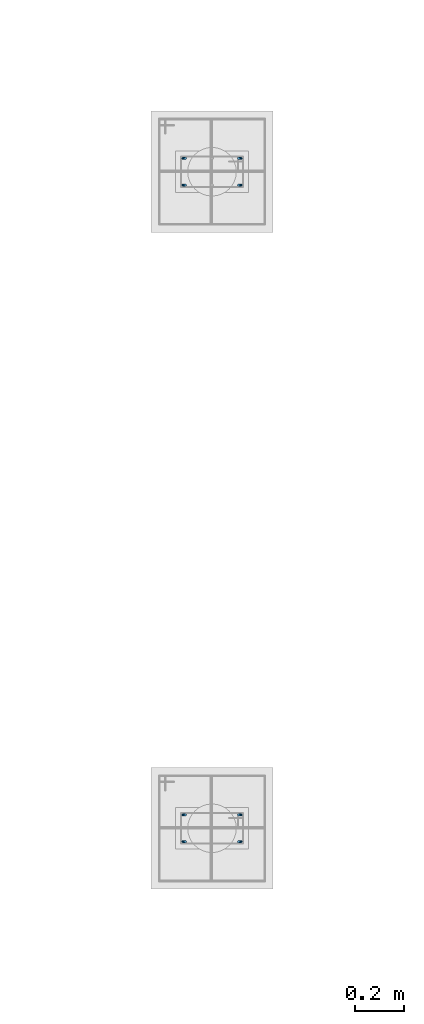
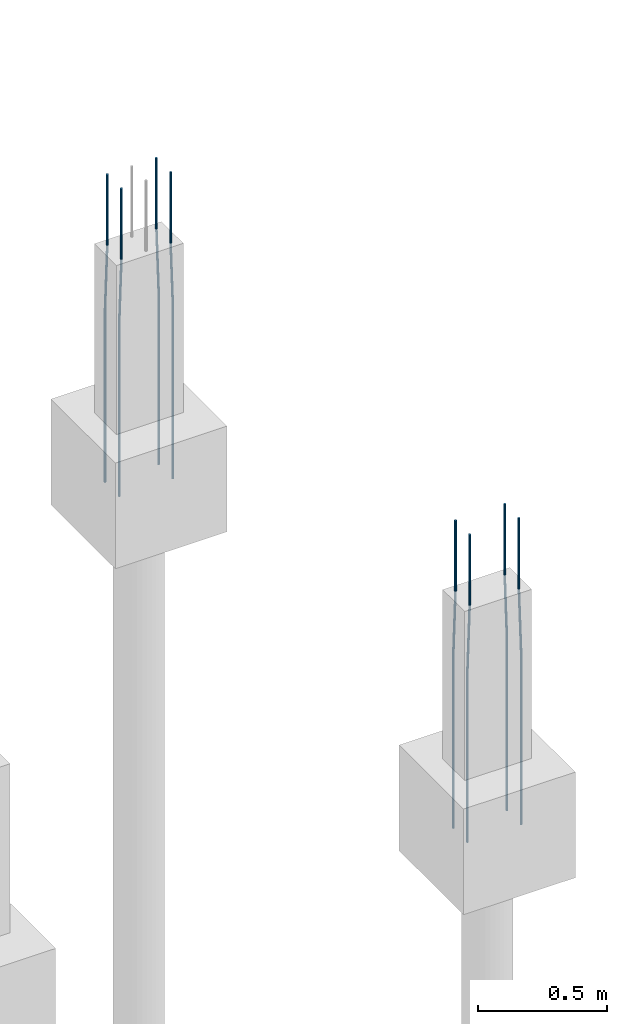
# One storey, part 61 of 119: 8 reinforcing bars.
"""IFC4 building model written with IfcOpenShell, lengths in centimetres."""

from ifc_helpers import new_model, entity, si_unit, derived_unit, frame, origin_with_axes, place, context, project, spatial, element, save


model = new_model("IFC4")

# Units and contexts
model_context = context("Model", 3, precision=1e-05, world=origin_with_axes(), identifier="Body")
ifc_project = project(units=[si_unit("LENGTHUNIT", "METRE", prefix="CENTI"), si_unit("VOLUMEUNIT", "CUBIC_METRE"), si_unit("AREAUNIT", "SQUARE_METRE"), si_unit("POWERUNIT", "WATT"), si_unit("LUMINOUSFLUXUNIT", "LUMEN"), si_unit("ELECTRICCURRENTUNIT", "AMPERE"), si_unit("PRESSUREUNIT", "PASCAL", prefix="KILO"), si_unit("MASSUNIT", "GRAM", prefix="KILO"), si_unit("PLANEANGLEUNIT", "RADIAN"), derived_unit("VOLUMETRICFLOWRATEUNIT", [(si_unit("LENGTHUNIT", "METRE"), 3), (si_unit("TIMEUNIT", "SECOND"), -1)])], contexts=[model_context])

# Site, building, storey
site_placement = place(None, frame((-4000.0, 0.0, 0.0), z_axis=(0.0, 0.0, 1.0), x_axis=(1.0, 0.0, 0.0)))
site = spatial("IfcSite", under=ifc_project, at=site_placement, Name="PADRÃO")
building_placement = place(site_placement, frame((0.0, 0.0, -14.0)))
building = spatial("IfcBuilding", under=site, at=building_placement, Name="CRECHE PRÉ-ESCOLA TIPO 2")
storey_placement = place(building_placement, origin_with_axes())
storey = spatial("IfcBuildingStorey", under=building, at=storey_placement, Name="FUNDAÇÃO", CompositionType="ELEMENT", Elevation=-14.0)

# Reinforcing bars
for number, where, z_axis, x_axis, name in (
    (1, (3361.0, 3464.52, 33.3573001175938), (0.0, 0.0, 1.0), (1.0, 0.0, 0.0), "P45 - Longitudinal"),
    (2, (3361.0, 3475.52, 33.3573001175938), (0.0, 0.0, 1.0), (1.0, 0.0, 0.0), "P45 - Longitudinal"),
):
    element("IfcReinforcingBar", number, at=place(storey_placement, frame(where, z_axis=z_axis, x_axis=x_axis)), inside=storey, Name=name, BarLength=0.0, CrossSectionArea=7.853981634e-05, NominalDiameter=1.0, PredefinedType="MAIN", context=model_context, shape_type="AdvancedSweptSolid", body=[
        entity("IfcSweptDiskSolid", entity("IfcCompositeCurve", [entity("IfcCompositeCurveSegment", "CONTINUOUS", True, entity("IfcPolyline", [entity("IfcCartesianPoint", [-0.5, 0.0, -145.357300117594]), entity("IfcCartesianPoint", [-0.5, 0.0, -63.3573001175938])])), entity("IfcCompositeCurveSegment", "CONTINUOUS", True, entity("IfcPolyline", [entity("IfcCartesianPoint", [-0.5, 0.0, -63.3573001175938]), entity("IfcCartesianPoint", [0.5, 0.0, -33.3573001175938])])), entity("IfcCompositeCurveSegment", "CONTINUOUS", True, entity("IfcPolyline", [entity("IfcCartesianPoint", [0.5, 0.0, -33.3573001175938]), entity("IfcCartesianPoint", [0.5, 0.0, 0.0])]))], False), 0.5),
    ])
for number, where, z_axis, x_axis, name in (
    (3, (3384.0, 3475.52, 33.3573001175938), (0.0, 0.0, 1.0), (1.0, 0.0, 0.0), "P45 - Longitudinal"),
    (4, (3384.0, 3464.52, 33.3573001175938), (0.0, 0.0, 1.0), (1.0, 0.0, 0.0), "P45 - Longitudinal"),
    (5, (3384.0, 3194.52, 33.3573001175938), (0.0, 0.0, 1.0), (1.0, 0.0, 0.0), "P56 - Longitudinal"),
):
    element("IfcReinforcingBar", number, at=place(storey_placement, frame(where, z_axis=z_axis, x_axis=x_axis)), inside=storey, Name=name, BarLength=0.0, CrossSectionArea=7.853981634e-05, NominalDiameter=1.0, PredefinedType="MAIN", context=model_context, shape_type="AdvancedSweptSolid", body=[
        entity("IfcSweptDiskSolid", entity("IfcCompositeCurve", [entity("IfcCompositeCurveSegment", "CONTINUOUS", True, entity("IfcPolyline", [entity("IfcCartesianPoint", [0.5, 0.0, -145.357300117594]), entity("IfcCartesianPoint", [0.5, 0.0, -63.3573001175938])])), entity("IfcCompositeCurveSegment", "CONTINUOUS", True, entity("IfcPolyline", [entity("IfcCartesianPoint", [0.5, 0.0, -63.3573001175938]), entity("IfcCartesianPoint", [-0.5, 0.0, -33.3573001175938])])), entity("IfcCompositeCurveSegment", "CONTINUOUS", True, entity("IfcPolyline", [entity("IfcCartesianPoint", [-0.5, 0.0, -33.3573001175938]), entity("IfcCartesianPoint", [-0.5, 0.0, 0.0])]))], False), 0.5),
    ])
for number, where, z_axis, x_axis, name in (
    (6, (3361.0, 3194.52, 33.3573001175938), (0.0, 0.0, 1.0), (1.0, 0.0, 0.0), "P56 - Longitudinal"),
    (7, (3361.0, 3205.52, 33.3573001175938), (0.0, 0.0, 1.0), (1.0, 0.0, 0.0), "P56 - Longitudinal"),
):
    element("IfcReinforcingBar", number, at=place(storey_placement, frame(where, z_axis=z_axis, x_axis=x_axis)), inside=storey, Name=name, BarLength=0.0, CrossSectionArea=7.853981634e-05, NominalDiameter=1.0, PredefinedType="MAIN", context=model_context, shape_type="AdvancedSweptSolid", body=[
        entity("IfcSweptDiskSolid", entity("IfcCompositeCurve", [entity("IfcCompositeCurveSegment", "CONTINUOUS", True, entity("IfcPolyline", [entity("IfcCartesianPoint", [-0.5, 0.0, -145.357300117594]), entity("IfcCartesianPoint", [-0.5, 0.0, -63.3573001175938])])), entity("IfcCompositeCurveSegment", "CONTINUOUS", True, entity("IfcPolyline", [entity("IfcCartesianPoint", [-0.5, 0.0, -63.3573001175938]), entity("IfcCartesianPoint", [0.5, 0.0, -33.3573001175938])])), entity("IfcCompositeCurveSegment", "CONTINUOUS", True, entity("IfcPolyline", [entity("IfcCartesianPoint", [0.5, 0.0, -33.3573001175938]), entity("IfcCartesianPoint", [0.5, 0.0, 0.0])]))], False), 0.5),
    ])
reinforcing_bar_placement = place(storey_placement, frame((3384.0, 3205.52, 33.3573001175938), z_axis=(0.0, 0.0, 1.0), x_axis=(1.0, 0.0, 0.0)))
element("IfcReinforcingBar", 8, at=reinforcing_bar_placement, inside=storey, Name="P56 - Longitudinal", BarLength=0.0, CrossSectionArea=7.853981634e-05, NominalDiameter=1.0, PredefinedType="MAIN", context=model_context, shape_type="AdvancedSweptSolid", body=[
    entity("IfcSweptDiskSolid", entity("IfcCompositeCurve", [entity("IfcCompositeCurveSegment", "CONTINUOUS", True, entity("IfcPolyline", [entity("IfcCartesianPoint", [0.5, 0.0, -145.357300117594]), entity("IfcCartesianPoint", [0.5, 0.0, -63.3573001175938])])), entity("IfcCompositeCurveSegment", "CONTINUOUS", True, entity("IfcPolyline", [entity("IfcCartesianPoint", [0.5, 0.0, -63.3573001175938]), entity("IfcCartesianPoint", [-0.5, 0.0, -33.3573001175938])])), entity("IfcCompositeCurveSegment", "CONTINUOUS", True, entity("IfcPolyline", [entity("IfcCartesianPoint", [-0.5, 0.0, -33.3573001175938]), entity("IfcCartesianPoint", [-0.5, 0.0, 0.0])]))], False), 0.5),
])

save(model, "model.ifc")
